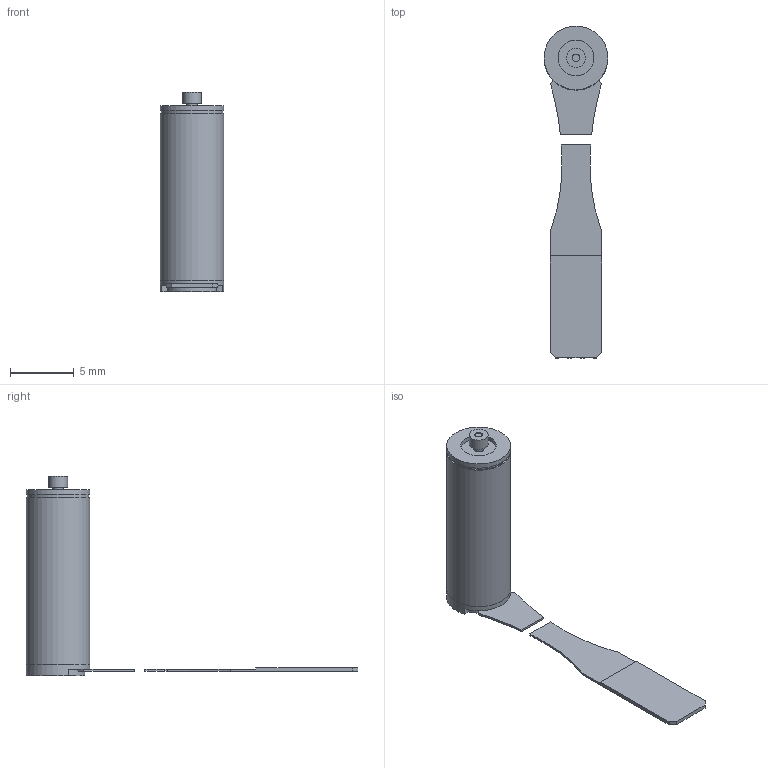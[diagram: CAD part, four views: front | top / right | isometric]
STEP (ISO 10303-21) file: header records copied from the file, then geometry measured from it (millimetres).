
FILE_DESCRIPTION(/* description */ (''),/* implementation_level */ '2;1');
FILE_NAME(/* name */ '0515A_B.stp',/* time_stamp */ '2017-07-14T08:01:47+02:00',/* author */ ('DR. FRITZ FAULHABER GmbH & Co. KG'),/* organization */ ('DR. FRITZ FAULHABER GmbH & Co. KG'),/* preprocessor_version */ 'ST-DEVELOPER v16',/* originating_system */ 'SIEMENS PLM Software NX 10.0',/* authorisation */ '');
FILE_SCHEMA (('AUTOMOTIVE_DESIGN { 1 0 10303 214 3 1 1 1 }'));
Length unit declared in the file: millimetre
Products named in the file (1): Alle_Motoren
Bounding box: 5 x 26 x 15.65 mm (x, y, z)
Volume: 300.7 mm3; surface area: 431.4 mm2
Topology: 2 solids, 2 shells, 76 faces, 187 edges, 125 vertices
Faces by surface type: plane 53, cylinder 16, extrusion 7
Full cylindrical faces by diameter (mm): 0.6 x1, 0.8 x1, 1.487 x1, 2.8 x1, 4.8 x1, 4.999 x1, 5 x3
Entity records: 2361 total; most frequent: CARTESIAN_POINT 609, ORIENTED_EDGE 348, DIRECTION 328, EDGE_CURVE 174, VERTEX_POINT 121, VECTOR 114, LINE 107, AXIS2_PLACEMENT_3D 107
